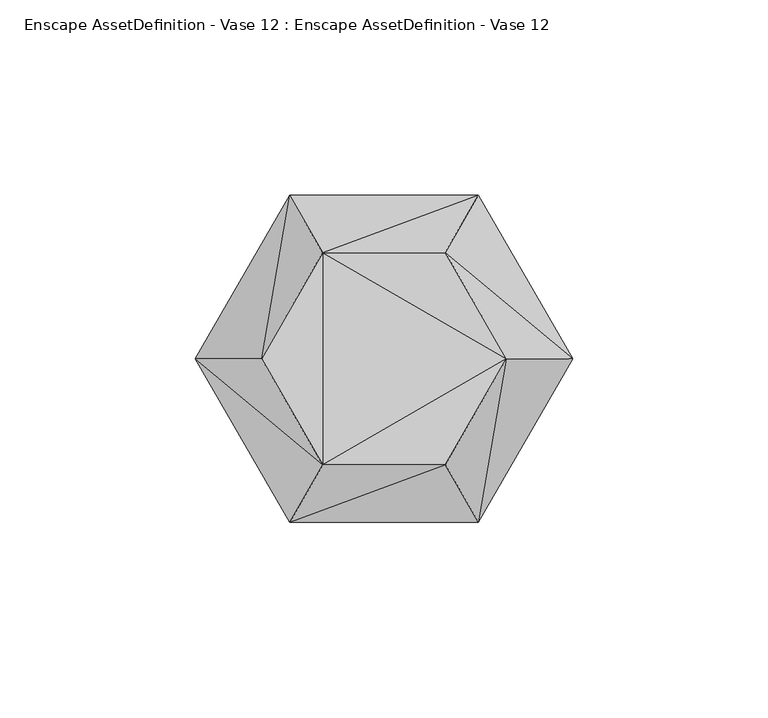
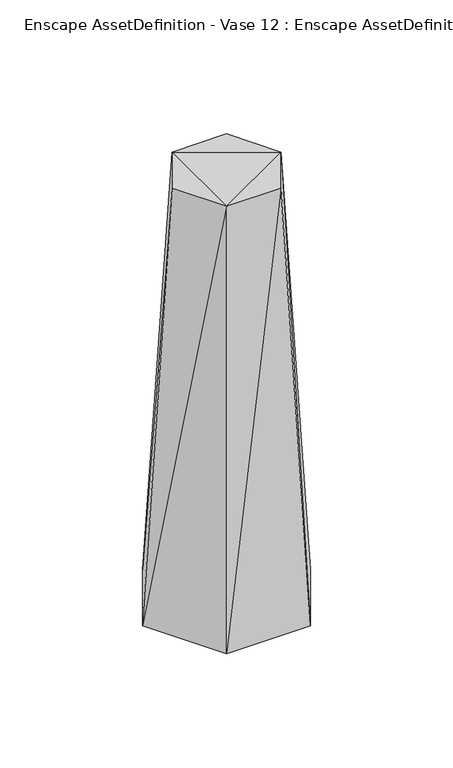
"""IFC4 building model written with IfcOpenShell, lengths in millimetres: geographic element geometry, Enscape AssetDefinition - Vase 12 : Enscape AssetDefinition - Vase 12."""

from ifc_helpers import new_model, si_unit, origin, place, context, project, spatial, faceted_brep, source, transform, mapped, element, save


def enscape_assetdefinition_vase_12_enscape_assetdefinition_vase_6fe4ffb9(model_context):
    return source(origin(), model_context, "Body", "Brep", [
        faceted_brep([(46.1756587, 2.8388852, -0.0108204), (21.9733249, -39.0794314, -0.0108204), (-26.4303572, -39.0794314, -0.0108204), (29.1384123, 2.8388852, 259.9891722), (13.4547027, 30.0040469, 259.9891722), (21.9733249, 44.758182, -0.0108204), (-17.9117322, 30.0040469, 259.9891722), (-26.4303572, 44.758182, -0.0108204), (-33.5954428, 2.8388852, 259.9891722), (-50.6326854, 2.8388852, -0.0108204), (-17.9117322, -24.3252907, 259.9891722), (13.4547027, -24.3252907, 259.9891722)], [[[0, 1, 2]], [[3, 0, 4]], [[4, 5, 6]], [[6, 7, 8]], [[8, 9, 10]], [[10, 2, 11]], [[11, 1, 3]], [[10, 11, 3]], [[7, 2, 9]], [[0, 7, 5]], [[0, 2, 7]], [[4, 0, 5]], [[6, 5, 7]], [[8, 7, 9]], [[10, 9, 2]], [[11, 2, 1]], [[3, 1, 0]], [[6, 3, 4]], [[10, 6, 8]], [[10, 3, 6]]]),
    ])


if __name__ == "__main__":
    model = new_model("IFC4")
    model_context = context("Model", 3, world=origin())
    ifc_project = project(units=[si_unit("LENGTHUNIT", "METRE", prefix="MILLI")], contexts=[model_context])
    site = spatial("IfcSite", under=ifc_project)
    building = spatial("IfcBuilding", under=site)
    placement = place(None, origin())
    enscape_assetdefinition_vase_12_enscape_assetdefinition_vase_shape = enscape_assetdefinition_vase_12_enscape_assetdefinition_vase_6fe4ffb9(model_context)
    element("IfcGeographicElement", 1, ObjectType="Enscape AssetDefinition - Vase 12 : Enscape AssetDefinition - Vase 12", at=placement, inside=building, context=model_context, shape_type="MappedRepresentation", body=[
        mapped(enscape_assetdefinition_vase_12_enscape_assetdefinition_vase_shape, transform((0.0, 0.0, 0.0), x_axis=(1.0, 0.0, 0.0), y_axis=(0.0, 1.0, 0.0), z_axis=(0.0, 0.0, 1.0))),
    ])
    save(model, "model.ifc")
